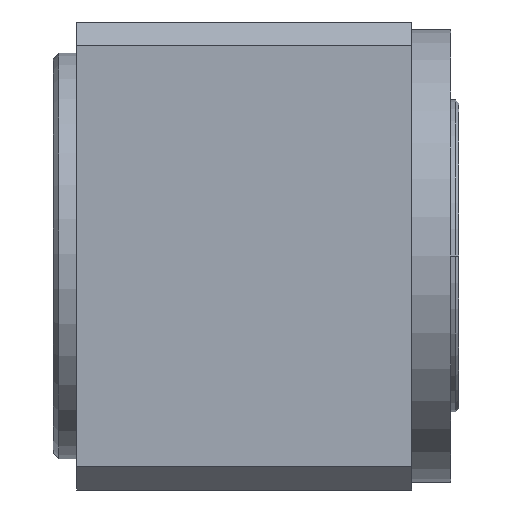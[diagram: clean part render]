
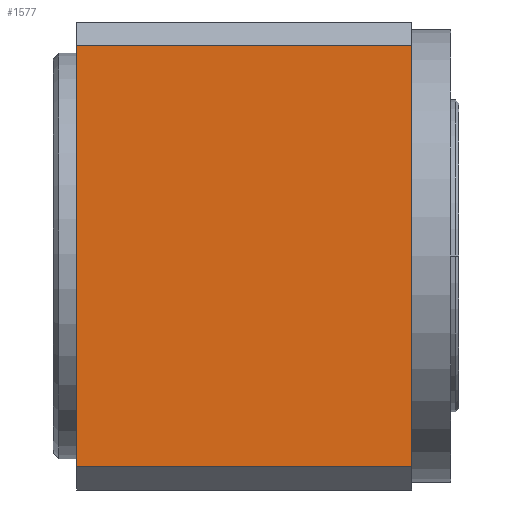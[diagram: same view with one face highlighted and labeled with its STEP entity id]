
A CAD part, front view. The second image highlights one B-rep face of the part: STEP entity #1577.
In plain terms, the highlighted planar face has unit normal (0, -1, 0).
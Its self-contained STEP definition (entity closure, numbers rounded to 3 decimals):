
#352 = LINE ( 'NONE', #1774, #7803 ) ;
#728 = DIRECTION ( 'NONE',  ( 0., 0., 1. ) ) ;
#1277 = ORIENTED_EDGE ( 'NONE', *, *, #5720, .T. ) ;
#1405 = CARTESIAN_POINT ( 'NONE',  ( 21.5, -15., -15. ) ) ;
#1461 = CARTESIAN_POINT ( 'NONE',  ( 0., -15., -15. ) ) ;
#1479 = VERTEX_POINT ( 'NONE', #4507 ) ;
#1577 = ADVANCED_FACE ( 'NONE', ( #4609 ), #6862, .T. ) ;
#1774 = CARTESIAN_POINT ( 'NONE',  ( 63.926, -15., 13.5 ) ) ;
#1789 = ORIENTED_EDGE ( 'NONE', *, *, #5416, .F. ) ;
#2454 = EDGE_LOOP ( 'NONE', ( #1789, #1277, #7013, #4353 ) ) ;
#2590 = VERTEX_POINT ( 'NONE', #7732 ) ;
#2927 = CARTESIAN_POINT ( 'NONE',  ( 0., -15., 13.5 ) ) ;
#3267 = EDGE_CURVE ( 'NONE', #9093, #4885, #352, .T. ) ;
#3422 = LINE ( 'NONE', #1461, #7033 ) ;
#3629 = VECTOR ( 'NONE', #4331, 1000. ) ;
#4331 = DIRECTION ( 'NONE',  ( 0., 0., -1. ) ) ;
#4353 = ORIENTED_EDGE ( 'NONE', *, *, #3267, .T. ) ;
#4507 = CARTESIAN_POINT ( 'NONE',  ( 21.5, -15., -13.5 ) ) ;
#4609 = FACE_OUTER_BOUND ( 'NONE', #2454, .T. ) ;
#4708 = DIRECTION ( 'NONE',  ( -1., 0., 0. ) ) ;
#4885 = VERTEX_POINT ( 'NONE', #2927 ) ;
#5378 = EDGE_CURVE ( 'NONE', #9093, #1479, #5574, .T. ) ;
#5416 = EDGE_CURVE ( 'NONE', #2590, #4885, #3422, .T. ) ;
#5574 = LINE ( 'NONE', #1405, #3629 ) ;
#5720 = EDGE_CURVE ( 'NONE', #2590, #1479, #7846, .T. ) ;
#6139 = AXIS2_PLACEMENT_3D ( 'NONE', #6682, #6893, #6924 ) ;
#6164 = DIRECTION ( 'NONE',  ( 1., 0., 0. ) ) ;
#6169 = CARTESIAN_POINT ( 'NONE',  ( 21.5, -15., 13.5 ) ) ;
#6407 = VECTOR ( 'NONE', #6164, 1000. ) ;
#6682 = CARTESIAN_POINT ( 'NONE',  ( 63.926, -15., -15. ) ) ;
#6862 = PLANE ( 'NONE',  #6139 ) ;
#6889 = CARTESIAN_POINT ( 'NONE',  ( 63.926, -15., -13.5 ) ) ;
#6893 = DIRECTION ( 'NONE',  ( 0., -1., 0. ) ) ;
#6924 = DIRECTION ( 'NONE',  ( 0., 0., -1. ) ) ;
#7013 = ORIENTED_EDGE ( 'NONE', *, *, #5378, .F. ) ;
#7033 = VECTOR ( 'NONE', #728, 1000. ) ;
#7732 = CARTESIAN_POINT ( 'NONE',  ( 0., -15., -13.5 ) ) ;
#7803 = VECTOR ( 'NONE', #4708, 1000. ) ;
#7846 = LINE ( 'NONE', #6889, #6407 ) ;
#9093 = VERTEX_POINT ( 'NONE', #6169 ) ;
